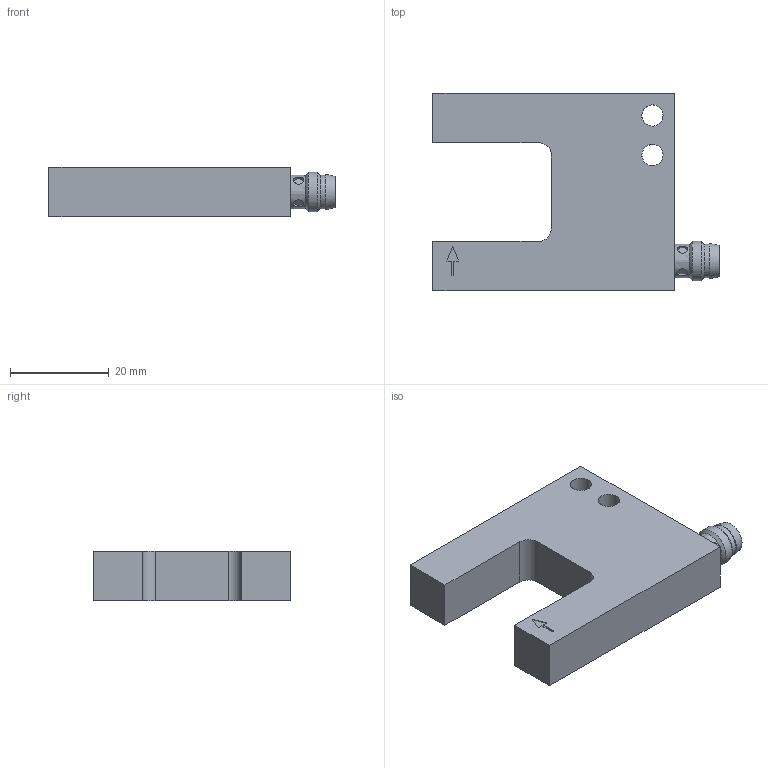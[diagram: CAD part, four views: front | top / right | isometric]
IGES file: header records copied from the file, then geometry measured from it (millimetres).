
Global section: file name: 153-00264_FGL 20-R-PSM3; native system: Autodesk Inventor 2018; preprocessor: unknown; date: 20190213.115635; units: millimetre
Bounding box: 58 x 40 x 10 mm (x, y, z)
Volume: 14749.8 mm3; surface area: 5791 mm2
Topology: 1 solids, 1 shells, 64 faces, 145 edges, 97 vertices
Faces by surface type: bspline 64
